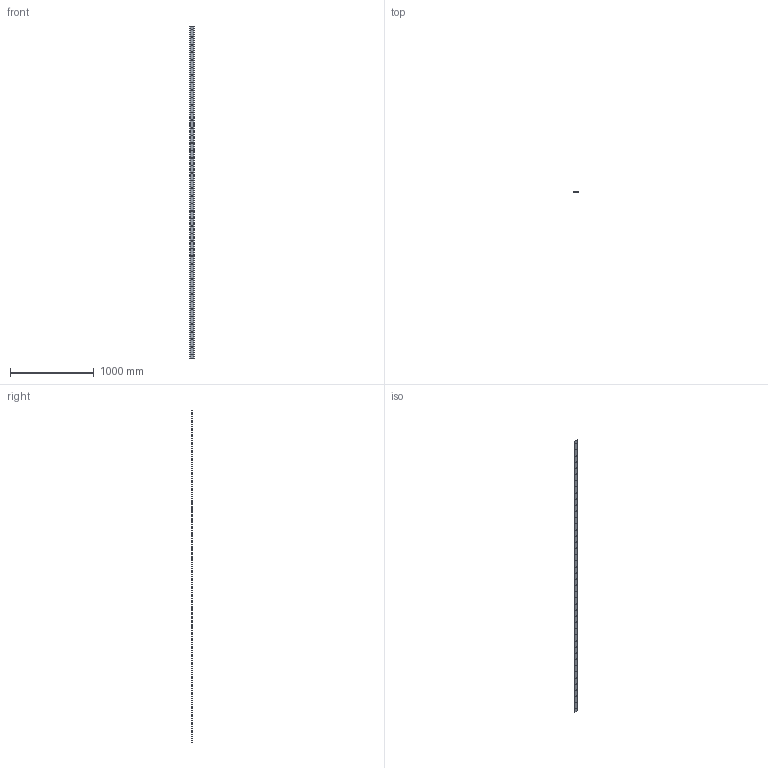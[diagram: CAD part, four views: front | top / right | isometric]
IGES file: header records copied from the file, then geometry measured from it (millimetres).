
Start section: 3D InterOp IGES (v. 2019 1.0.2), Spatial Corp. Copyright (c) 1999-2017.
Global section: file name: SS S50 3956.igs; native system: Spatial Corp.; preprocessor: 3D InterOp GENERIC/IGES 3.0; author: Noname; organization: Noname; date: 20220628.112211; units: millimetre
Bounding box: 49.7 x 4.7 x 3956 mm (x, y, z)
Surface area: 409867.5 mm2 (no closed solid volume)
Topology: 0 solids, 0 shells, 100 faces, 588 edges, 588 vertices
Faces by surface type: revolution 92, extrusion 8
